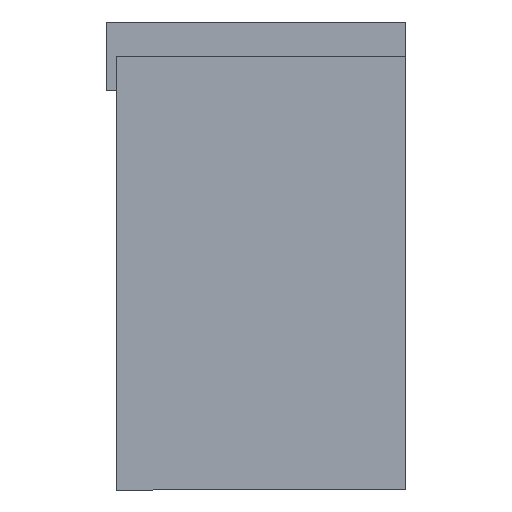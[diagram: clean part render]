
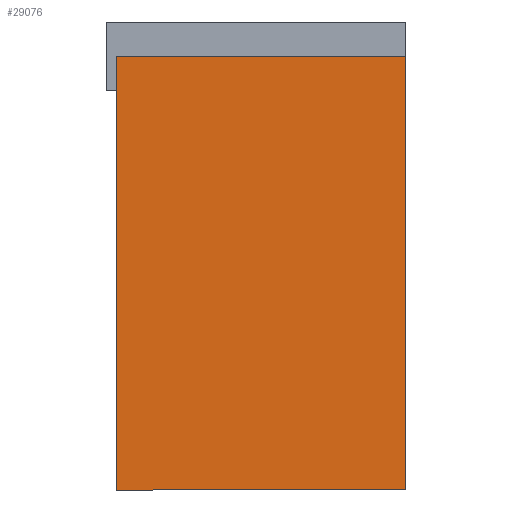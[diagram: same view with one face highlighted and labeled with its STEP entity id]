
A CAD part, left-side view. The second image highlights one B-rep face of the part: STEP entity #29076.
In plain terms, the highlighted planar face has unit normal (-1, 0, 0).
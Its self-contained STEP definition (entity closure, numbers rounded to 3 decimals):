
#4875=FACE_OUTER_BOUND('',#6467,.T.);
#6467=EDGE_LOOP('',(#20170,#20171,#20172,#20173));
#8182=LINE('',#43007,#10843);
#8186=LINE('',#43015,#10847);
#8189=LINE('',#43021,#10850);
#8192=LINE('',#43026,#10853);
#10843=VECTOR('',#34365,0.394);
#10847=VECTOR('',#34371,0.394);
#10850=VECTOR('',#34376,0.394);
#10853=VECTOR('',#34381,0.394);
#13488=VERTEX_POINT('',#43005);
#13489=VERTEX_POINT('',#43006);
#13492=VERTEX_POINT('',#43014);
#13494=VERTEX_POINT('',#43020);
#16084=EDGE_CURVE('',#13488,#13489,#8182,.T.);
#16088=EDGE_CURVE('',#13492,#13488,#8186,.T.);
#16091=EDGE_CURVE('',#13494,#13492,#8189,.T.);
#16094=EDGE_CURVE('',#13489,#13494,#8192,.T.);
#20170=ORIENTED_EDGE('',*,*,#16094,.F.);
#20171=ORIENTED_EDGE('',*,*,#16084,.F.);
#20172=ORIENTED_EDGE('',*,*,#16088,.F.);
#20173=ORIENTED_EDGE('',*,*,#16091,.F.);
#28119=PLANE('',#31323);
#29076=ADVANCED_FACE('',(#4875),#28119,.F.);
#31323=AXIS2_PLACEMENT_3D('',#43029,#34385,#34386);
#34365=DIRECTION('',(0.,0.,-1.));
#34371=DIRECTION('',(0.,-1.,0.));
#34376=DIRECTION('',(0.,0.,1.));
#34381=DIRECTION('',(0.,1.,0.));
#34385=DIRECTION('center_axis',(1.,0.,0.));
#34386=DIRECTION('ref_axis',(0.,0.,-1.));
#43005=CARTESIAN_POINT('',(0.,0.,0.));
#43006=CARTESIAN_POINT('',(0.,0.,-63.));
#43007=CARTESIAN_POINT('',(0.,0.,0.));
#43014=CARTESIAN_POINT('',(0.,42.,0.));
#43015=CARTESIAN_POINT('',(0.,42.,0.));
#43020=CARTESIAN_POINT('',(0.,42.,-63.));
#43021=CARTESIAN_POINT('',(0.,42.,-63.));
#43026=CARTESIAN_POINT('',(0.,0.,-63.));
#43029=CARTESIAN_POINT('Origin',(0.,21.,-31.5));
